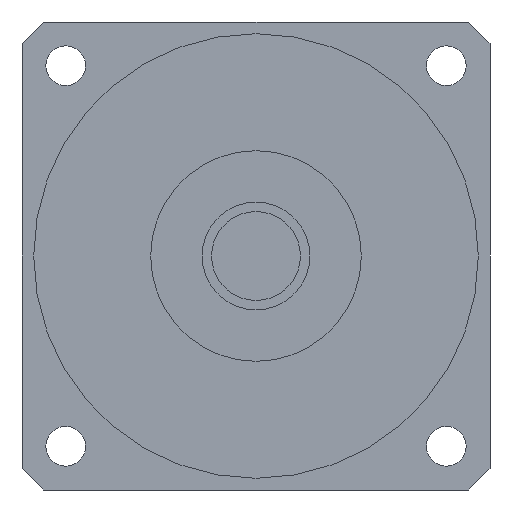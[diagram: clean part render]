
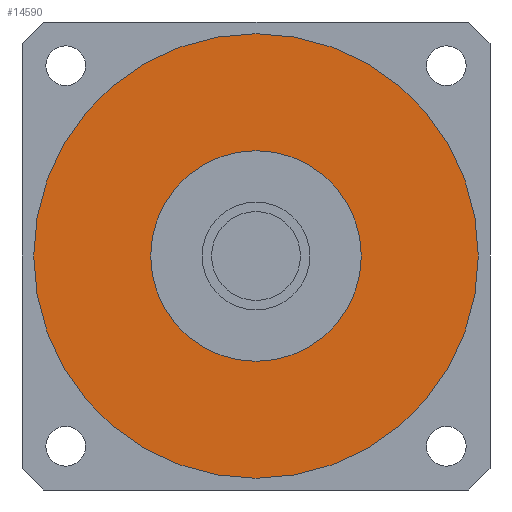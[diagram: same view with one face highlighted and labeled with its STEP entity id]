
A CAD part, left-side view. The second image highlights one B-rep face of the part: STEP entity #14590.
In plain terms, the highlighted planar face has unit normal (-1, 0, 0) as drawn and (0, 0, -1) by its records, which use the part's own axes.
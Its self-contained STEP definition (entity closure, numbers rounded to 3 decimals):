
#14010=CARTESIAN_POINT('',(47.5,0.,-38.7));
#14020=VERTEX_POINT('',#14010);
#14110=CARTESIAN_POINT('',(-47.5,0.,-38.7));
#14120=VERTEX_POINT('',#14110);
#14150=CARTESIAN_POINT('',(0.,0.,
-38.7));
#14160=DIRECTION('',(0.,0.,1.));
#14170=DIRECTION('',(0.,1.,0.));
#14180=AXIS2_PLACEMENT_3D('',#14150,#14160,#14170);
#14190=CIRCLE('',#14180,47.5);
#14200=CARTESIAN_POINT('',(0.,47.5,-38.7));
#14210=VERTEX_POINT('',#14200);
#14220=EDGE_CURVE('',#14210,#14120,#14190,.T.);
#14240=EDGE_CURVE('',#14020,#14210,#14190,.T.);
#14290=CARTESIAN_POINT('',(0.,0.,
-38.7));
#14300=DIRECTION('',(0.,0.,1.));
#14310=DIRECTION('',(-1.,0.,0.));
#14320=AXIS2_PLACEMENT_3D('',#14290,#14300,#14310);
#14330=PLANE('',#14320);
#14340=ORIENTED_EDGE('',*,*,#14220,.F.);
#14350=EDGE_CURVE('',#14120,#14020,#14190,.T.);
#14360=ORIENTED_EDGE('',*,*,#14350,.F.);
#14370=ORIENTED_EDGE('',*,*,#14240,.F.);
#14380=EDGE_LOOP('',(#14370,#14360,#14340));
#14390=FACE_OUTER_BOUND('',#14380,.T.);
#14400=CARTESIAN_POINT('',(0.,0.,
-38.7));
#14410=DIRECTION('',(0.,0.,1.));
#14420=DIRECTION('',(0.,1.,0.));
#14430=AXIS2_PLACEMENT_3D('',#14400,#14410,#14420);
#14440=CIRCLE('',#14430,22.5);
#14450=CARTESIAN_POINT('',(-22.5,0.,-38.7));
#14460=VERTEX_POINT('',#14450);
#14470=CARTESIAN_POINT('',(22.5,0.,-38.7));
#14480=VERTEX_POINT('',#14470);
#14490=EDGE_CURVE('',#14460,#14480,#14440,.T.);
#14500=ORIENTED_EDGE('',*,*,#14490,.T.);
#14510=CARTESIAN_POINT('',(0.,22.5,-38.7));
#14520=VERTEX_POINT('',#14510);
#14530=EDGE_CURVE('',#14520,#14460,#14440,.T.);
#14540=ORIENTED_EDGE('',*,*,#14530,.T.);
#14550=EDGE_CURVE('',#14480,#14520,#14440,.T.);
#14560=ORIENTED_EDGE('',*,*,#14550,.T.);
#14570=EDGE_LOOP('',(#14560,#14540,#14500));
#14580=FACE_BOUND('',#14570,.T.);
#14590=ADVANCED_FACE('',(#14390,#14580),#14330,.F.);
